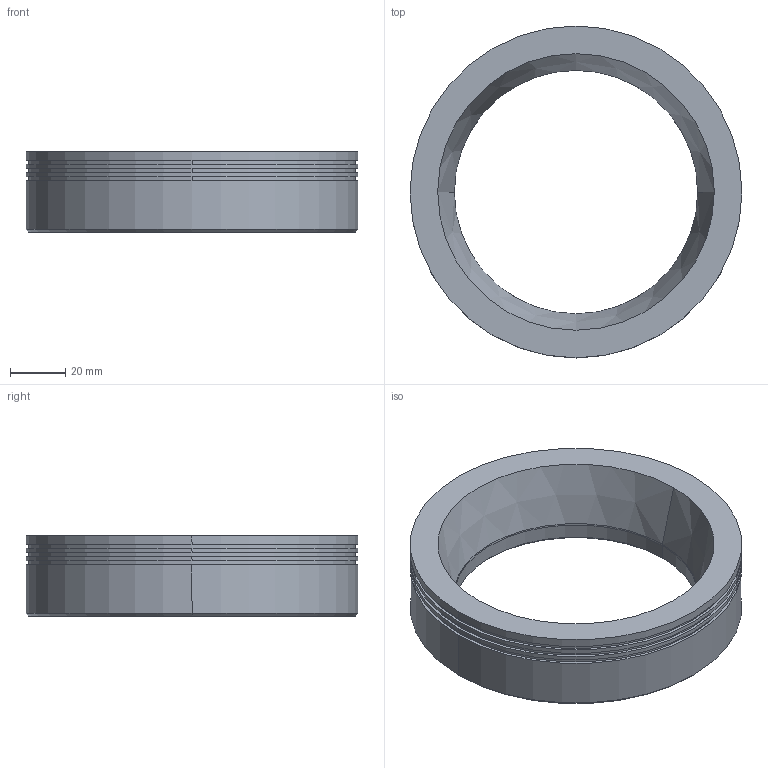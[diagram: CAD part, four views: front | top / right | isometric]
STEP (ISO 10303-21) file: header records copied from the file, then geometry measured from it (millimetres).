
FILE_DESCRIPTION((''),'2;1');
FILE_NAME('DRL7030','2020-03-28T',('ASUS'),(''),'PRO/ENGINEER BY PARAMETRIC TECHNOLOGY CORPORATION, 2008380','PRO/ENGINEER BY PARAMETRIC TECHNOLOGY CORPORATION, 2008380','');
FILE_SCHEMA(('CONFIG_CONTROL_DESIGN'));
Length unit declared in the file: millimetre
Products named in the file (1): DRL7030
Bounding box: 120 x 120 x 29 mm (x, y, z)
Volume: 130012.1 mm3; surface area: 30564 mm2
Topology: 1 solids, 5 shells, 68 faces, 152 edges, 92 vertices
Faces by surface type: cylinder 32, cone 22, plane 12, torus 2
Entity records: 1901 total; most frequent: DIRECTION 372, CARTESIAN_POINT 305, ORIENTED_EDGE 272, AXIS2_PLACEMENT_3D 159, EDGE_CURVE 144, VERTEX_POINT 92, CIRCLE 90, EDGE_LOOP 84
